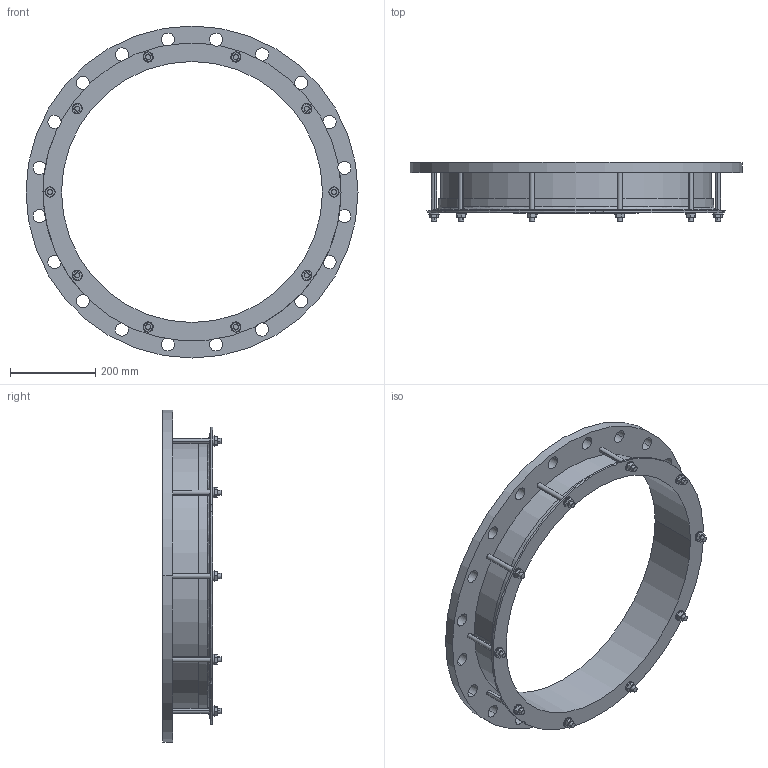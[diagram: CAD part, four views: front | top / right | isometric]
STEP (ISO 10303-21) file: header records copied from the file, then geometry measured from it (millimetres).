
FILE_DESCRIPTION((''),'2;1');
FILE_NAME('610X600PN10_5NOT','2019-01-16T',('mfairey'),('Glynwed Pipe Systems'),'CREO PARAMETRIC BY PTC INC, 2016130','CREO PARAMETRIC BY PTC INC, 2016130','');
FILE_SCHEMA(('CONFIG_CONTROL_DESIGN'));
Length unit declared in the file: millimetre
Products named in the file (1): 610X600PN10_5NOT
Bounding box: 780 x 137.45 x 780 mm (x, y, z)
Volume: 6806012.2 mm3; surface area: 1018017.5 mm2
Topology: 1 solids, 1 shells, 216 faces, 574 edges, 382 vertices
Faces by surface type: cylinder 116, plane 94, cone 4, torus 2
Entity records: 7553 total; most frequent: CARTESIAN_POINT 1874, DIRECTION 1182, ORIENTED_EDGE 1148, EDGE_CURVE 574, AXIS2_PLACEMENT_3D 441, VERTEX_POINT 382, VECTOR 300, LINE 300
